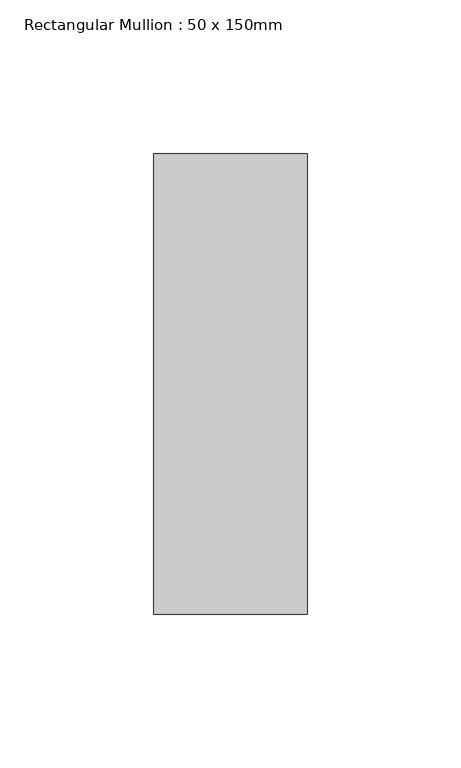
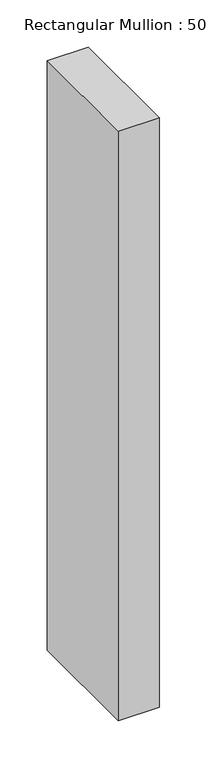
"""IFC4 building model written with IfcOpenShell, lengths in millimetres: member geometry, Rectangular Mullion : 50 x 150mm."""

from ifc_helpers import new_model, si_unit, frame, origin, place, context, project, spatial, polyline, outline, extrude, source, transform, mapped, element, save


def rectangular_mullion_50_x_150mm_e9c7c7e3(model_context):
    return source(origin(), model_context, "Body", "SweptSolid", [
        extrude(outline(polyline([(0.0, 75.0), (0.0, -75.0), (-50.0, -75.0), (-50.0, 75.0), (0.0, 75.0)])), frame((0.0, 0.0, -760.1784942), z_axis=(0.0, 0.0, 1.0), x_axis=(1.0, 0.0, 0.0)), (0.0, 0.0, 1.0), 760.1784942),
    ])


if __name__ == "__main__":
    model = new_model("IFC4")
    model_context = context("Model", 3, world=origin())
    ifc_project = project(units=[si_unit("LENGTHUNIT", "METRE", prefix="MILLI")], contexts=[model_context])
    site = spatial("IfcSite", under=ifc_project)
    building = spatial("IfcBuilding", under=site)
    placement = place(None, origin())
    rectangular_mullion_50_x_150mm_shape = rectangular_mullion_50_x_150mm_e9c7c7e3(model_context)
    element("IfcMember", 1, ObjectType="Rectangular Mullion : 50 x 150mm", at=placement, inside=building, context=model_context, shape_type="MappedRepresentation", body=[
        mapped(rectangular_mullion_50_x_150mm_shape, transform((0.0, 0.0, 0.0), x_axis=(1.0, 0.0, 0.0), y_axis=(0.0, 1.0, 0.0), z_axis=(0.0, 0.0, 1.0))),
    ])
    save(model, "model.ifc")
